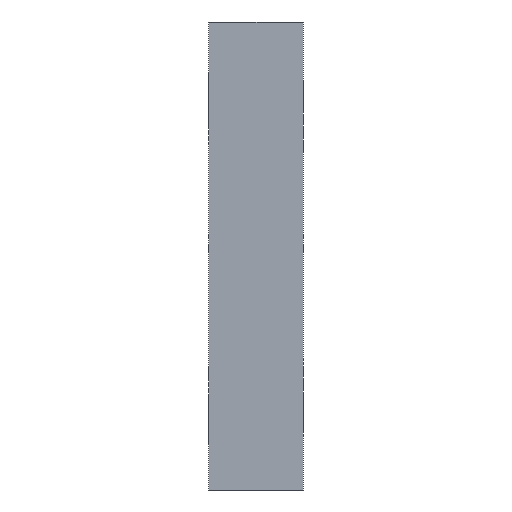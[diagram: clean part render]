
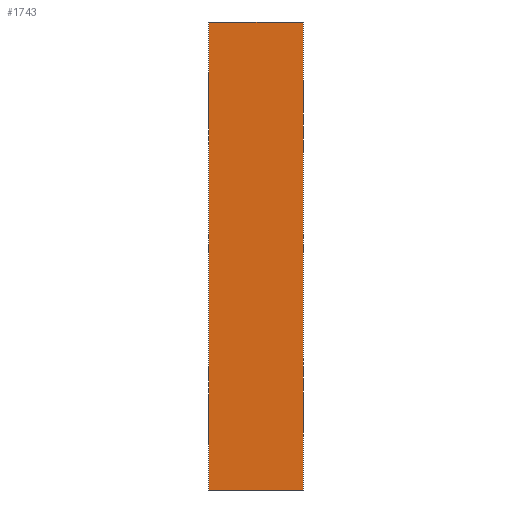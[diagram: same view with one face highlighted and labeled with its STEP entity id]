
A CAD part, left-side view. The second image highlights one B-rep face of the part: STEP entity #1743.
In plain terms, the highlighted planar face has unit normal (-1, 0, 0).
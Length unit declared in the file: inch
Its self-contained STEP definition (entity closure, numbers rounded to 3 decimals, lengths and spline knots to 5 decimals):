
#80 = CARTESIAN_POINT ( 'NONE',  ( -14.07432, 1.312, 3.53108 ) ) ;
#308 = CARTESIAN_POINT ( 'NONE',  ( -14.07432, 1.312, -2.96892 ) ) ;
#429 = EDGE_CURVE ( 'NONE', #3349, #926, #1967, .T. ) ;
#766 = CARTESIAN_POINT ( 'NONE',  ( -14.07432, 0., 3.53108 ) ) ;
#876 = PLANE ( 'NONE',  #1897 ) ;
#903 = CARTESIAN_POINT ( 'NONE',  ( -14.07432, 1.312, -2.96892 ) ) ;
#926 = VERTEX_POINT ( 'NONE', #766 ) ;
#931 = CARTESIAN_POINT ( 'NONE',  ( -14.07432, 0., -2.96892 ) ) ;
#1146 = DIRECTION ( 'NONE',  ( 0., 0., -1. ) ) ;
#1196 = DIRECTION ( 'NONE',  ( 0., 0., 1. ) ) ;
#1197 = VECTOR ( 'NONE', #1392, 39.37008 ) ;
#1392 = DIRECTION ( 'NONE',  ( 0., -1., 0. ) ) ;
#1443 = VERTEX_POINT ( 'NONE', #308 ) ;
#1446 = EDGE_LOOP ( 'NONE', ( #2532, #2897, #3156, #2724 ) ) ;
#1648 = VECTOR ( 'NONE', #2855, 39.37008 ) ;
#1729 = EDGE_CURVE ( 'NONE', #1443, #3349, #3343, .T. ) ;
#1743 = ADVANCED_FACE ( 'NONE', ( #1836 ), #876, .F. ) ;
#1778 = EDGE_CURVE ( 'NONE', #1443, #3048, #3170, .T. ) ;
#1836 = FACE_OUTER_BOUND ( 'NONE', #1446, .T. ) ;
#1897 = AXIS2_PLACEMENT_3D ( 'NONE', #3359, #2813, #1146 ) ;
#1967 = LINE ( 'NONE', #931, #2548 ) ;
#1999 = CARTESIAN_POINT ( 'NONE',  ( -14.07432, 1.312, 3.53108 ) ) ;
#2243 = EDGE_CURVE ( 'NONE', #3048, #926, #3142, .T. ) ;
#2359 = CARTESIAN_POINT ( 'NONE',  ( -14.07432, 0., -2.96892 ) ) ;
#2419 = VECTOR ( 'NONE', #3125, 39.37008 ) ;
#2532 = ORIENTED_EDGE ( 'NONE', *, *, #429, .T. ) ;
#2548 = VECTOR ( 'NONE', #1196, 39.37008 ) ;
#2724 = ORIENTED_EDGE ( 'NONE', *, *, #1729, .T. ) ;
#2813 = DIRECTION ( 'NONE',  ( 1., 0., 0. ) ) ;
#2855 = DIRECTION ( 'NONE',  ( 0., -1., 0. ) ) ;
#2897 = ORIENTED_EDGE ( 'NONE', *, *, #2243, .F. ) ;
#3048 = VERTEX_POINT ( 'NONE', #80 ) ;
#3087 = CARTESIAN_POINT ( 'NONE',  ( -14.07432, 1.312, -2.96892 ) ) ;
#3125 = DIRECTION ( 'NONE',  ( 0., 0., 1. ) ) ;
#3142 = LINE ( 'NONE', #1999, #1648 ) ;
#3156 = ORIENTED_EDGE ( 'NONE', *, *, #1778, .F. ) ;
#3170 = LINE ( 'NONE', #903, #2419 ) ;
#3343 = LINE ( 'NONE', #3087, #1197 ) ;
#3349 = VERTEX_POINT ( 'NONE', #2359 ) ;
#3359 = CARTESIAN_POINT ( 'NONE',  ( -14.07432, 1.312, -2.96892 ) ) ;
